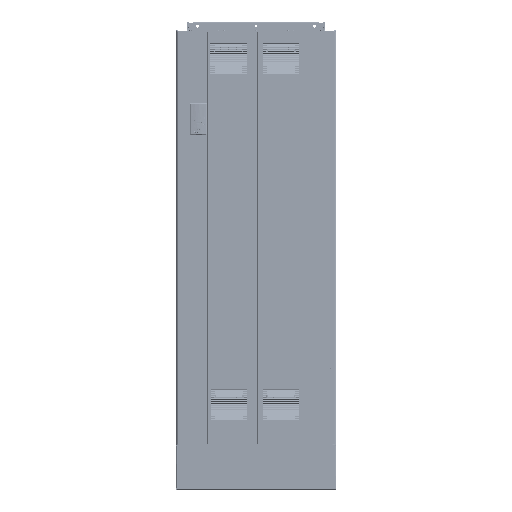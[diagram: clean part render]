
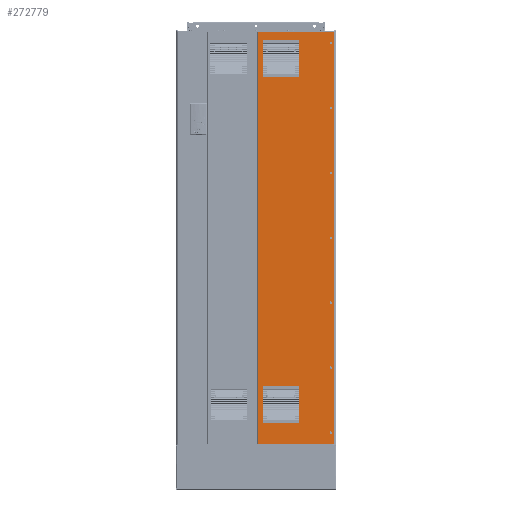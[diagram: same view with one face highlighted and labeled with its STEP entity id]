
A CAD part, top view. The second image highlights one B-rep face of the part: STEP entity #272779.
In plain terms, the highlighted planar face has unit normal (0, 0, 1) as drawn and (0, 0, -1) by its records, which use the part's own axes.
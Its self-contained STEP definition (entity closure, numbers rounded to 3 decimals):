
#271812=DIRECTION('',(-1.,0.,0.));
#271813=VECTOR('',#271812,332.508);
#271814=CARTESIAN_POINT('',(354.808,0.,-3.));
#271815=LINE('',#271814,#271813);
#272010=DIRECTION('',(-1.,0.,0.));
#272011=VECTOR('',#272010,332.508);
#272012=CARTESIAN_POINT('',(354.808,1798.5,-3.));
#272013=LINE('',#272012,#272011);
#272014=DIRECTION('',(0.,-1.,0.));
#272015=VECTOR('',#272014,1798.5);
#272016=CARTESIAN_POINT('',(22.3,1798.5,-3.));
#272017=LINE('',#272016,#272015);
#272018=DIRECTION('',(0.,1.,0.));
#272019=VECTOR('',#272018,1798.5);
#272020=CARTESIAN_POINT('',(354.808,0.,-3.));
#272021=LINE('',#272020,#272019);
#272022=DIRECTION('',(0.,1.,0.));
#272023=VECTOR('',#272022,139.2);
#272024=CARTESIAN_POINT('',(57.281,1557.1,-3.));
#272025=LINE('',#272024,#272023);
#272026=DIRECTION('',(1.,0.,0.));
#272027=VECTOR('',#272026,132.6);
#272028=CARTESIAN_POINT('',(57.281,1696.3,-3.));
#272029=LINE('',#272028,#272027);
#272030=DIRECTION('',(0.,-1.,0.));
#272031=VECTOR('',#272030,139.2);
#272032=CARTESIAN_POINT('',(189.881,1696.3,-3.));
#272033=LINE('',#272032,#272031);
#272034=DIRECTION('',(-1.,0.,0.));
#272035=VECTOR('',#272034,132.6);
#272036=CARTESIAN_POINT('',(189.881,1557.1,-3.));
#272037=LINE('',#272036,#272035);
#272038=DIRECTION('',(0.,1.,0.));
#272039=VECTOR('',#272038,139.2);
#272040=CARTESIAN_POINT('',(57.281,47.2,-3.));
#272041=LINE('',#272040,#272039);
#272042=DIRECTION('',(1.,0.,0.));
#272043=VECTOR('',#272042,132.6);
#272044=CARTESIAN_POINT('',(57.281,186.4,-3.));
#272045=LINE('',#272044,#272043);
#272046=DIRECTION('',(0.,-1.,0.));
#272047=VECTOR('',#272046,139.2);
#272048=CARTESIAN_POINT('',(189.881,186.4,-3.));
#272049=LINE('',#272048,#272047);
#272050=DIRECTION('',(-1.,0.,0.));
#272051=VECTOR('',#272050,132.6);
#272052=CARTESIAN_POINT('',(189.881,47.2,-3.));
#272053=LINE('',#272052,#272051);
#272054=CARTESIAN_POINT('',(341.728,1749.25,-3.));
#272055=DIRECTION('',(0.,0.,-1.));
#272056=DIRECTION('',(1.,0.,0.));
#272057=AXIS2_PLACEMENT_3D('',#272054,#272055,#272056);
#272059=CARTESIAN_POINT('',(341.728,1749.25,-3.));
#272060=DIRECTION('',(0.,0.,-1.));
#272061=DIRECTION('',(-1.,0.,0.));
#272062=AXIS2_PLACEMENT_3D('',#272059,#272060,#272061);
#272064=CARTESIAN_POINT('',(341.728,1465.91,-3.));
#272065=DIRECTION('',(0.,0.,-1.));
#272066=DIRECTION('',(1.,0.,0.));
#272067=AXIS2_PLACEMENT_3D('',#272064,#272065,#272066);
#272069=CARTESIAN_POINT('',(341.728,1465.91,-3.));
#272070=DIRECTION('',(0.,0.,-1.));
#272071=DIRECTION('',(-1.,0.,0.));
#272072=AXIS2_PLACEMENT_3D('',#272069,#272070,#272071);
#272074=CARTESIAN_POINT('',(341.728,899.25,-3.));
#272075=DIRECTION('',(0.,0.,-1.));
#272076=DIRECTION('',(1.,0.,0.));
#272077=AXIS2_PLACEMENT_3D('',#272074,#272075,#272076);
#272079=CARTESIAN_POINT('',(341.728,899.25,-3.));
#272080=DIRECTION('',(0.,0.,-1.));
#272081=DIRECTION('',(-1.,0.,0.));
#272082=AXIS2_PLACEMENT_3D('',#272079,#272080,#272081);
#272084=CARTESIAN_POINT('',(341.728,615.92,-3.));
#272085=DIRECTION('',(0.,0.,-1.));
#272086=DIRECTION('',(1.,0.,0.));
#272087=AXIS2_PLACEMENT_3D('',#272084,#272085,#272086);
#272089=CARTESIAN_POINT('',(341.728,615.92,-3.));
#272090=DIRECTION('',(0.,0.,-1.));
#272091=DIRECTION('',(-1.,0.,0.));
#272092=AXIS2_PLACEMENT_3D('',#272089,#272090,#272091);
#272094=CARTESIAN_POINT('',(341.728,49.25,-3.));
#272095=DIRECTION('',(0.,0.,-1.));
#272096=DIRECTION('',(1.,0.,0.));
#272097=AXIS2_PLACEMENT_3D('',#272094,#272095,#272096);
#272099=CARTESIAN_POINT('',(341.728,49.25,-3.));
#272100=DIRECTION('',(0.,0.,-1.));
#272101=DIRECTION('',(-1.,0.,0.));
#272102=AXIS2_PLACEMENT_3D('',#272099,#272100,#272101);
#272104=CARTESIAN_POINT('',(341.728,332.59,-3.));
#272105=DIRECTION('',(0.,0.,-1.));
#272106=DIRECTION('',(1.,0.,0.));
#272107=AXIS2_PLACEMENT_3D('',#272104,#272105,#272106);
#272109=CARTESIAN_POINT('',(341.728,332.59,-3.));
#272110=DIRECTION('',(0.,0.,-1.));
#272111=DIRECTION('',(-1.,0.,0.));
#272112=AXIS2_PLACEMENT_3D('',#272109,#272110,#272111);
#272114=CARTESIAN_POINT('',(341.728,1182.58,-3.));
#272115=DIRECTION('',(0.,0.,-1.));
#272116=DIRECTION('',(1.,0.,0.));
#272117=AXIS2_PLACEMENT_3D('',#272114,#272115,#272116);
#272119=CARTESIAN_POINT('',(341.728,1182.58,-3.));
#272120=DIRECTION('',(0.,0.,-1.));
#272121=DIRECTION('',(-1.,0.,0.));
#272122=AXIS2_PLACEMENT_3D('',#272119,#272120,#272121);
#272296=CARTESIAN_POINT('',(354.808,0.,-3.));
#272298=VERTEX_POINT('',#272296);
#272307=CARTESIAN_POINT('',(354.808,1798.5,-3.));
#272308=CARTESIAN_POINT('',(22.3,1798.5,-3.));
#272309=VERTEX_POINT('',#272307);
#272310=VERTEX_POINT('',#272308);
#272341=CARTESIAN_POINT('',(57.281,1557.1,-3.));
#272342=CARTESIAN_POINT('',(57.281,1696.3,-3.));
#272343=VERTEX_POINT('',#272341);
#272344=VERTEX_POINT('',#272342);
#272345=CARTESIAN_POINT('',(189.881,1696.3,-3.));
#272346=VERTEX_POINT('',#272345);
#272347=CARTESIAN_POINT('',(189.881,1557.1,-3.));
#272348=VERTEX_POINT('',#272347);
#272357=CARTESIAN_POINT('',(57.281,47.2,-3.));
#272358=CARTESIAN_POINT('',(57.281,186.4,-3.));
#272359=VERTEX_POINT('',#272357);
#272360=VERTEX_POINT('',#272358);
#272361=CARTESIAN_POINT('',(189.881,186.4,-3.));
#272362=VERTEX_POINT('',#272361);
#272363=CARTESIAN_POINT('',(189.881,47.2,-3.));
#272364=VERTEX_POINT('',#272363);
#272365=CARTESIAN_POINT('',(344.028,1749.25,-3.));
#272366=CARTESIAN_POINT('',(339.428,1749.25,-3.));
#272367=VERTEX_POINT('',#272365);
#272368=VERTEX_POINT('',#272366);
#272369=CARTESIAN_POINT('',(344.028,1465.91,-3.));
#272370=CARTESIAN_POINT('',(339.428,1465.91,-3.));
#272371=VERTEX_POINT('',#272369);
#272372=VERTEX_POINT('',#272370);
#272373=CARTESIAN_POINT('',(344.028,899.25,-3.));
#272374=CARTESIAN_POINT('',(339.428,899.25,-3.));
#272375=VERTEX_POINT('',#272373);
#272376=VERTEX_POINT('',#272374);
#272377=CARTESIAN_POINT('',(344.028,615.92,-3.));
#272378=CARTESIAN_POINT('',(339.428,615.92,-3.));
#272379=VERTEX_POINT('',#272377);
#272380=VERTEX_POINT('',#272378);
#272381=CARTESIAN_POINT('',(344.028,49.25,-3.));
#272382=CARTESIAN_POINT('',(339.428,49.25,-3.));
#272383=VERTEX_POINT('',#272381);
#272384=VERTEX_POINT('',#272382);
#272406=CARTESIAN_POINT('',(22.3,0.,-3.));
#272408=VERTEX_POINT('',#272406);
#272417=CARTESIAN_POINT('',(344.028,332.59,-3.));
#272418=CARTESIAN_POINT('',(339.428,332.59,-3.));
#272419=VERTEX_POINT('',#272417);
#272420=VERTEX_POINT('',#272418);
#272421=CARTESIAN_POINT('',(344.028,1182.58,-3.));
#272422=CARTESIAN_POINT('',(339.428,1182.58,-3.));
#272423=VERTEX_POINT('',#272421);
#272424=VERTEX_POINT('',#272422);
#272706=CARTESIAN_POINT('',(354.808,0.,-3.));
#272707=DIRECTION('',(0.,0.,-1.));
#272708=DIRECTION('',(-1.,0.,0.));
#272709=AXIS2_PLACEMENT_3D('',#272706,#272707,#272708);
#272710=PLANE('',#272709);
#272711=ORIENTED_EDGE('',*,*,#272508,.T.);
#272712=ORIENTED_EDGE('',*,*,#272487,.T.);
#272713=ORIENTED_EDGE('',*,*,#272472,.F.);
#272714=ORIENTED_EDGE('',*,*,#272699,.T.);
#272715=EDGE_LOOP('',(#272711,#272712,#272713,#272714));
#272716=FACE_OUTER_BOUND('',#272715,.F.);
#272718=ORIENTED_EDGE('',*,*,#272717,.T.);
#272720=ORIENTED_EDGE('',*,*,#272719,.T.);
#272722=ORIENTED_EDGE('',*,*,#272721,.T.);
#272724=ORIENTED_EDGE('',*,*,#272723,.T.);
#272725=EDGE_LOOP('',(#272718,#272720,#272722,#272724));
#272726=FACE_BOUND('',#272725,.F.);
#272728=ORIENTED_EDGE('',*,*,#272727,.T.);
#272730=ORIENTED_EDGE('',*,*,#272729,.T.);
#272732=ORIENTED_EDGE('',*,*,#272731,.T.);
#272734=ORIENTED_EDGE('',*,*,#272733,.T.);
#272735=EDGE_LOOP('',(#272728,#272730,#272732,#272734));
#272736=FACE_BOUND('',#272735,.F.);
#272738=ORIENTED_EDGE('',*,*,#272737,.T.);
#272740=ORIENTED_EDGE('',*,*,#272739,.T.);
#272741=EDGE_LOOP('',(#272738,#272740));
#272742=FACE_BOUND('',#272741,.F.);
#272744=ORIENTED_EDGE('',*,*,#272743,.T.);
#272746=ORIENTED_EDGE('',*,*,#272745,.T.);
#272747=EDGE_LOOP('',(#272744,#272746));
#272748=FACE_BOUND('',#272747,.F.);
#272750=ORIENTED_EDGE('',*,*,#272749,.T.);
#272752=ORIENTED_EDGE('',*,*,#272751,.T.);
#272753=EDGE_LOOP('',(#272750,#272752));
#272754=FACE_BOUND('',#272753,.F.);
#272756=ORIENTED_EDGE('',*,*,#272755,.T.);
#272758=ORIENTED_EDGE('',*,*,#272757,.T.);
#272759=EDGE_LOOP('',(#272756,#272758));
#272760=FACE_BOUND('',#272759,.F.);
#272762=ORIENTED_EDGE('',*,*,#272761,.T.);
#272764=ORIENTED_EDGE('',*,*,#272763,.T.);
#272765=EDGE_LOOP('',(#272762,#272764));
#272766=FACE_BOUND('',#272765,.F.);
#272768=ORIENTED_EDGE('',*,*,#272767,.T.);
#272770=ORIENTED_EDGE('',*,*,#272769,.T.);
#272771=EDGE_LOOP('',(#272768,#272770));
#272772=FACE_BOUND('',#272771,.F.);
#272774=ORIENTED_EDGE('',*,*,#272773,.T.);
#272776=ORIENTED_EDGE('',*,*,#272775,.T.);
#272777=EDGE_LOOP('',(#272774,#272776));
#272778=FACE_BOUND('',#272777,.F.);
#272779=ADVANCED_FACE('',(#272716,#272726,#272736,#272742,#272748,#272754,
#272760,#272766,#272772,#272778),#272710,.T.);
#272058=CIRCLE('',#272057,2.3);
#272063=CIRCLE('',#272062,2.3);
#272068=CIRCLE('',#272067,2.3);
#272073=CIRCLE('',#272072,2.3);
#272078=CIRCLE('',#272077,2.3);
#272083=CIRCLE('',#272082,2.3);
#272088=CIRCLE('',#272087,2.3);
#272093=CIRCLE('',#272092,2.3);
#272098=CIRCLE('',#272097,2.3);
#272103=CIRCLE('',#272102,2.3);
#272108=CIRCLE('',#272107,2.3);
#272113=CIRCLE('',#272112,2.3);
#272118=CIRCLE('',#272117,2.3);
#272123=CIRCLE('',#272122,2.3);
#272472=EDGE_CURVE('',#272298,#272408,#271815,.T.);
#272487=EDGE_CURVE('',#272310,#272408,#272017,.T.);
#272508=EDGE_CURVE('',#272309,#272310,#272013,.T.);
#272699=EDGE_CURVE('',#272298,#272309,#272021,.T.);
#272717=EDGE_CURVE('',#272343,#272344,#272025,.T.);
#272719=EDGE_CURVE('',#272344,#272346,#272029,.T.);
#272721=EDGE_CURVE('',#272346,#272348,#272033,.T.);
#272723=EDGE_CURVE('',#272348,#272343,#272037,.T.);
#272727=EDGE_CURVE('',#272359,#272360,#272041,.T.);
#272729=EDGE_CURVE('',#272360,#272362,#272045,.T.);
#272731=EDGE_CURVE('',#272362,#272364,#272049,.T.);
#272733=EDGE_CURVE('',#272364,#272359,#272053,.T.);
#272737=EDGE_CURVE('',#272367,#272368,#272058,.T.);
#272739=EDGE_CURVE('',#272368,#272367,#272063,.T.);
#272743=EDGE_CURVE('',#272371,#272372,#272068,.T.);
#272745=EDGE_CURVE('',#272372,#272371,#272073,.T.);
#272749=EDGE_CURVE('',#272375,#272376,#272078,.T.);
#272751=EDGE_CURVE('',#272376,#272375,#272083,.T.);
#272755=EDGE_CURVE('',#272379,#272380,#272088,.T.);
#272757=EDGE_CURVE('',#272380,#272379,#272093,.T.);
#272761=EDGE_CURVE('',#272383,#272384,#272098,.T.);
#272763=EDGE_CURVE('',#272384,#272383,#272103,.T.);
#272767=EDGE_CURVE('',#272419,#272420,#272108,.T.);
#272769=EDGE_CURVE('',#272420,#272419,#272113,.T.);
#272773=EDGE_CURVE('',#272423,#272424,#272118,.T.);
#272775=EDGE_CURVE('',#272424,#272423,#272123,.T.);
